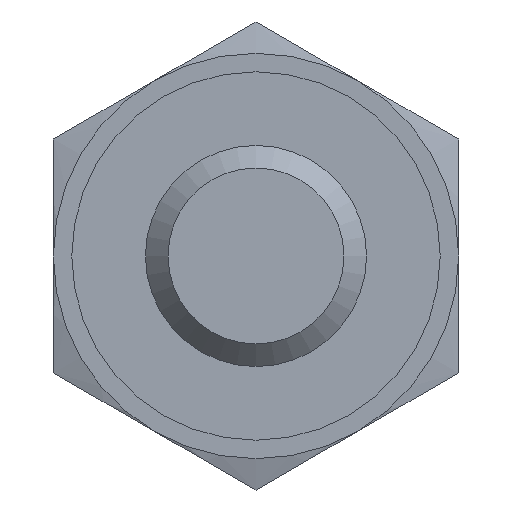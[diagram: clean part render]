
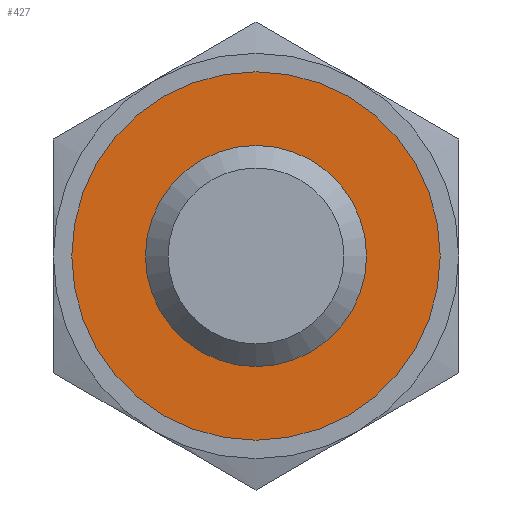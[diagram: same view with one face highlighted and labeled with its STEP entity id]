
A CAD part, front view. The second image highlights one B-rep face of the part: STEP entity #427.
In plain terms, the highlighted planar face has unit normal (0, -1, 0).
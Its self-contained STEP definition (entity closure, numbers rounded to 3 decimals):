
#33=PLANE('',#483);
#60=CIRCLE('',#482,2.5);
#61=CIRCLE('',#484,1.194);
#107=ORIENTED_EDGE('',*,*,#211,.F.);
#108=ORIENTED_EDGE('',*,*,#210,.T.);
#210=EDGE_CURVE('',#260,#260,#60,.T.);
#211=EDGE_CURVE('',#261,#261,#61,.T.);
#260=VERTEX_POINT('',#734);
#261=VERTEX_POINT('',#737);
#320=EDGE_LOOP('',(#107));
#321=EDGE_LOOP('',(#108));
#368=FACE_BOUND('',#320,.T.);
#369=FACE_BOUND('',#321,.T.);
#427=ADVANCED_FACE('',(#368,#369),#33,.F.);
#482=AXIS2_PLACEMENT_3D('',#733,#561,#562);
#483=AXIS2_PLACEMENT_3D('',#735,#563,#564);
#484=AXIS2_PLACEMENT_3D('',#736,#565,#566);
#561=DIRECTION('',(0.,-1.,0.));
#562=DIRECTION('',(1.,0.,0.));
#563=DIRECTION('',(0.,1.,0.));
#564=DIRECTION('',(-1.,0.,0.));
#565=DIRECTION('',(0.,-1.,0.));
#566=DIRECTION('',(1.,0.,0.));
#733=CARTESIAN_POINT('',(0.,0.,0.));
#734=CARTESIAN_POINT('',(2.5,0.,0.));
#735=CARTESIAN_POINT('',(2.5,0.,0.));
#736=CARTESIAN_POINT('',(0.,0.,0.));
#737=CARTESIAN_POINT('',(1.194,0.,0.));
